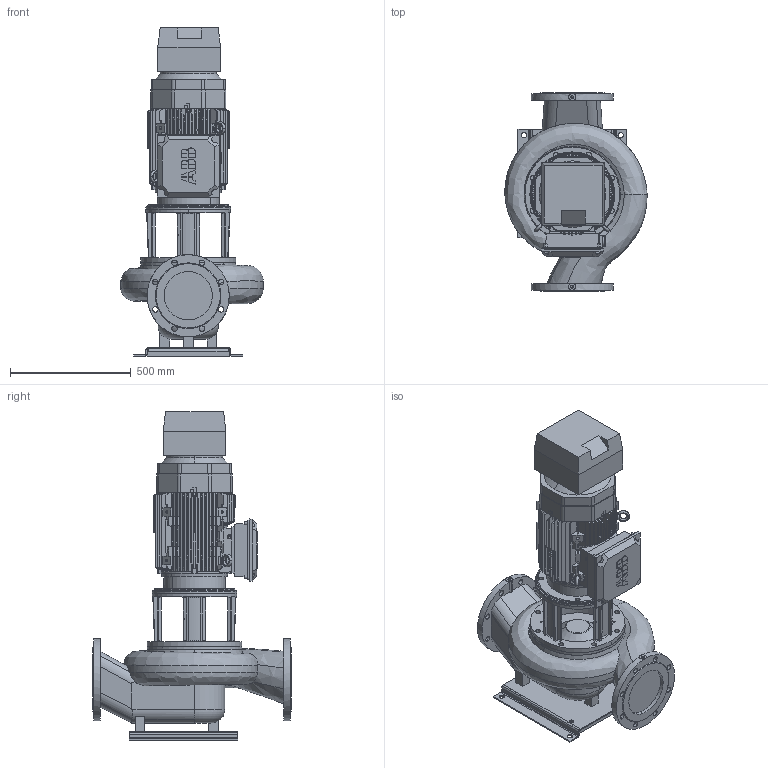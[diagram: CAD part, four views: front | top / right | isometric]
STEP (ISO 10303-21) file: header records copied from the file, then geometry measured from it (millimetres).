
FILE_DESCRIPTION(('STEP AP214'),'1');
FILE_NAME('export.stp','2018-08-08T12:41:24',(' '),(' '),'Spatial InterOp 3D',' ',' ');
FILE_SCHEMA(('AUTOMOTIVE_DESIGN { 1 0 10303 214 1 1 1 1 }'));
Length unit declared in the file: millimetre
Products named in the file (21): W_AL12026SDNC110; V_TLL100SAL1202; V_PPAL1202; P100464; P100462; P101191; IEC160_FRAME; P100781; IEC-160; -simplified-simplified_parts_Ter; 3GZV244000-310999-294000-299999_; -simplified-simplified_parts_Fan; -simplified-simplified_parts_M2_; -simplified-simplified_parts_Sta; Implementation-HOUSING_Lifting_E; 3GZV183002-193006-183002-183999_; 3GZV311000-999999-324000-324001_; NC_Size2
Assembly tree (22 placements, depth 4):
  W_AL12026SDNC110
    V_TLL100SAL1202
    V_PPAL1202
    P100464
      P100462
      P101191  x2
    IEC160_FRAME
      P100781
      IEC-160
        -simplified-simplified_parts_Ter
        -simplified-simplified_parts_Ter
        3GZV244000-310999-294000-299999_
        -simplified-simplified_parts_Fan
        -simplified-simplified_parts_M2_
        -simplified-simplified_parts_Sta
        Implementation-HOUSING_Lifting_E  x2
        3GZV244000-310999-294000-299999_
        3GZV244000-310999-294000-299999_
        3GZV183002-193006-183002-183999_
        3GZV311000-999999-324000-324001_
    NC_Size2
Bounding box: 589.13 x 820.22 x 1358.81 mm (x, y, z)
Volume: 122021774.8 mm3; surface area: 5715152.9 mm2
Topology: 16 solids, 111 shells, 1674 faces, 4655 edges, 3115 vertices
Faces by surface type: bspline 1231, cylinder 236, plane 137, torus 40, cone 30
Entity records: 87291 total; most frequent: CARTESIAN_POINT 29809, ORIENTED_EDGE 8463, STYLED_ITEM 4554, PRESENTATION_STYLE_ASSIGNMENT 4554, COLOUR_RGB 4554, EDGE_CURVE 4438, VERTEX_POINT 2988, CURVE_STYLE 2933
